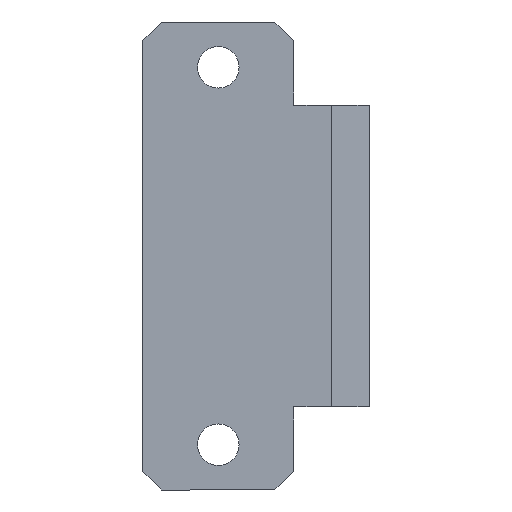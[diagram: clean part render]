
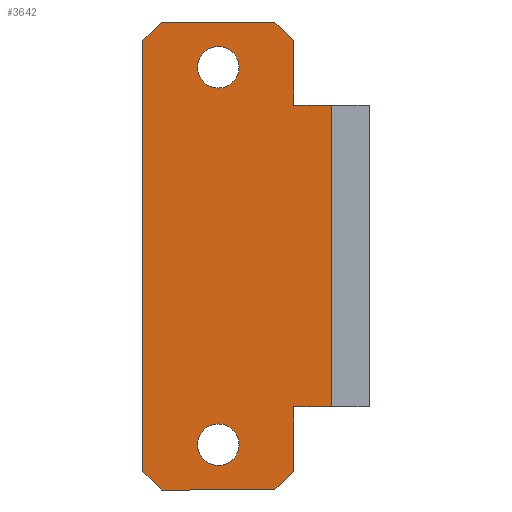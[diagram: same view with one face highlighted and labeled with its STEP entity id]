
A CAD part, left-side view. The second image highlights one B-rep face of the part: STEP entity #3642.
In plain terms, the highlighted planar face has unit normal (-1, 0, 0).
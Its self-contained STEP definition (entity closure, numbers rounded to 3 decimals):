
#74 = AXIS2_PLACEMENT_3D ( 'NONE', #2791, #906, #3105 ) ;
#83 = DIRECTION ( 'NONE',  ( 0., -1., 0. ) ) ;
#160 = ORIENTED_EDGE ( 'NONE', *, *, #3017, .T. ) ;
#168 = EDGE_LOOP ( 'NONE', ( #2089, #3054 ) ) ;
#237 = CARTESIAN_POINT ( 'NONE',  ( -20., 10., -28.5 ) ) ;
#273 = CARTESIAN_POINT ( 'NONE',  ( -20., 27.5, 31. ) ) ;
#294 = EDGE_CURVE ( 'NONE', #2698, #2354, #1527, .T. ) ;
#300 = VECTOR ( 'NONE', #1321, 1000. ) ;
#321 = AXIS2_PLACEMENT_3D ( 'NONE', #3120, #832, #2805 ) ;
#324 = LINE ( 'NONE', #798, #3401 ) ;
#343 = CARTESIAN_POINT ( 'NONE',  ( -20., 12.5, -31. ) ) ;
#383 = LINE ( 'NONE', #3489, #2809 ) ;
#431 = EDGE_CURVE ( 'NONE', #857, #1084, #2694, .T. ) ;
#482 = LINE ( 'NONE', #1504, #3006 ) ;
#501 = CARTESIAN_POINT ( 'NONE',  ( -20., 30., -20. ) ) ;
#503 = ORIENTED_EDGE ( 'NONE', *, *, #934, .T. ) ;
#563 = ORIENTED_EDGE ( 'NONE', *, *, #1561, .T. ) ;
#567 = DIRECTION ( 'NONE',  ( 0., 0.707, 0.707 ) ) ;
#591 = CARTESIAN_POINT ( 'NONE',  ( -20., 20., -25. ) ) ;
#599 = EDGE_LOOP ( 'NONE', ( #3307, #640, #1710, #2998, #2065, #160, #563, #1528, #1882, #2816, #824, #503 ) ) ;
#613 = CARTESIAN_POINT ( 'NONE',  ( -20., 12.5, -31. ) ) ;
#624 = VECTOR ( 'NONE', #1663, 1000. ) ;
#640 = ORIENTED_EDGE ( 'NONE', *, *, #1023, .T. ) ;
#684 = CARTESIAN_POINT ( 'NONE',  ( -20., 5., 20. ) ) ;
#692 = CARTESIAN_POINT ( 'NONE',  ( -20., 20., 25. ) ) ;
#738 = CARTESIAN_POINT ( 'NONE',  ( -20., 27.5, -31. ) ) ;
#755 = CARTESIAN_POINT ( 'NONE',  ( -20., 10., 28.5 ) ) ;
#798 = CARTESIAN_POINT ( 'NONE',  ( -20., 30., 31. ) ) ;
#824 = ORIENTED_EDGE ( 'NONE', *, *, #431, .T. ) ;
#832 = DIRECTION ( 'NONE',  ( 1., 0., 0. ) ) ;
#839 = CARTESIAN_POINT ( 'NONE',  ( -20., 5., -20. ) ) ;
#857 = VERTEX_POINT ( 'NONE', #343 ) ;
#868 = DIRECTION ( 'NONE',  ( 0., 0., -1. ) ) ;
#879 = VERTEX_POINT ( 'NONE', #3827 ) ;
#893 = VECTOR ( 'NONE', #83, 1000. ) ;
#906 = DIRECTION ( 'NONE',  ( 1., 0., 0. ) ) ;
#934 = EDGE_CURVE ( 'NONE', #1084, #3997, #3722, .T. ) ;
#960 = EDGE_CURVE ( 'NONE', #2354, #2698, #2674, .T. ) ;
#972 = VERTEX_POINT ( 'NONE', #273 ) ;
#992 = LINE ( 'NONE', #2770, #2664 ) ;
#1013 = DIRECTION ( 'NONE',  ( 0., 0., -1. ) ) ;
#1023 = EDGE_CURVE ( 'NONE', #2119, #1900, #2571, .T. ) ;
#1084 = VERTEX_POINT ( 'NONE', #237 ) ;
#1146 = DIRECTION ( 'NONE',  ( 0., 0., 1. ) ) ;
#1160 = CIRCLE ( 'NONE', #4104, 2.75 ) ;
#1208 = VECTOR ( 'NONE', #2083, 1000. ) ;
#1264 = CARTESIAN_POINT ( 'NONE',  ( -20., 10., -20. ) ) ;
#1304 = LINE ( 'NONE', #501, #1208 ) ;
#1321 = DIRECTION ( 'NONE',  ( 0., -1., 0. ) ) ;
#1419 = FACE_BOUND ( 'NONE', #1589, .T. ) ;
#1493 = LINE ( 'NONE', #3869, #624 ) ;
#1504 = CARTESIAN_POINT ( 'NONE',  ( -20., 10., 28.5 ) ) ;
#1517 = FACE_BOUND ( 'NONE', #168, .T. ) ;
#1527 = CIRCLE ( 'NONE', #1639, 2.75 ) ;
#1528 = ORIENTED_EDGE ( 'NONE', *, *, #1692, .F. ) ;
#1561 = EDGE_CURVE ( 'NONE', #972, #879, #2812, .T. ) ;
#1589 = EDGE_LOOP ( 'NONE', ( #3515, #2394 ) ) ;
#1610 = CARTESIAN_POINT ( 'NONE',  ( -20., 10., 20. ) ) ;
#1639 = AXIS2_PLACEMENT_3D ( 'NONE', #591, #2501, #4083 ) ;
#1663 = DIRECTION ( 'NONE',  ( 0., 0., 1. ) ) ;
#1664 = CARTESIAN_POINT ( 'NONE',  ( -20., 20., 27.75 ) ) ;
#1692 = EDGE_CURVE ( 'NONE', #1996, #879, #992, .T. ) ;
#1710 = ORIENTED_EDGE ( 'NONE', *, *, #1747, .F. ) ;
#1747 = EDGE_CURVE ( 'NONE', #2336, #1900, #3505, .T. ) ;
#1753 = VECTOR ( 'NONE', #2153, 1000. ) ;
#1760 = DIRECTION ( 'NONE',  ( 0., 1., 0. ) ) ;
#1820 = EDGE_CURVE ( 'NONE', #1996, #2915, #383, .T. ) ;
#1858 = VECTOR ( 'NONE', #2827, 1000. ) ;
#1882 = ORIENTED_EDGE ( 'NONE', *, *, #1820, .T. ) ;
#1900 = VERTEX_POINT ( 'NONE', #684 ) ;
#1978 = VECTOR ( 'NONE', #3830, 1000. ) ;
#1996 = VERTEX_POINT ( 'NONE', #3953 ) ;
#2065 = ORIENTED_EDGE ( 'NONE', *, *, #3147, .T. ) ;
#2083 = DIRECTION ( 'NONE',  ( 0., -1., 0. ) ) ;
#2089 = ORIENTED_EDGE ( 'NONE', *, *, #294, .T. ) ;
#2108 = CARTESIAN_POINT ( 'NONE',  ( -20., 20., 22.25 ) ) ;
#2119 = VERTEX_POINT ( 'NONE', #839 ) ;
#2127 = CARTESIAN_POINT ( 'NONE',  ( -20., 30., -20. ) ) ;
#2153 = DIRECTION ( 'NONE',  ( 0., 0., 1. ) ) ;
#2224 = VERTEX_POINT ( 'NONE', #2108 ) ;
#2235 = CARTESIAN_POINT ( 'NONE',  ( -20., 20., -22.25 ) ) ;
#2255 = VERTEX_POINT ( 'NONE', #2898 ) ;
#2287 = DIRECTION ( 'NONE',  ( 0., -0.707, -0.707 ) ) ;
#2336 = VERTEX_POINT ( 'NONE', #1610 ) ;
#2354 = VERTEX_POINT ( 'NONE', #2235 ) ;
#2394 = ORIENTED_EDGE ( 'NONE', *, *, #3744, .T. ) ;
#2435 = PLANE ( 'NONE',  #3755 ) ;
#2501 = DIRECTION ( 'NONE',  ( 1., 0., 0. ) ) ;
#2508 = CARTESIAN_POINT ( 'NONE',  ( -20., 20., -27.75 ) ) ;
#2571 = LINE ( 'NONE', #3731, #1753 ) ;
#2664 = VECTOR ( 'NONE', #1146, 1000. ) ;
#2674 = CIRCLE ( 'NONE', #321, 2.75 ) ;
#2694 = LINE ( 'NONE', #613, #1858 ) ;
#2698 = VERTEX_POINT ( 'NONE', #2508 ) ;
#2755 = DIRECTION ( 'NONE',  ( 1., 0., 0. ) ) ;
#2770 = CARTESIAN_POINT ( 'NONE',  ( -20., 30., -20. ) ) ;
#2791 = CARTESIAN_POINT ( 'NONE',  ( -20., 20., 25. ) ) ;
#2805 = DIRECTION ( 'NONE',  ( 0., 0., -1. ) ) ;
#2809 = VECTOR ( 'NONE', #2287, 1000. ) ;
#2812 = LINE ( 'NONE', #3037, #1978 ) ;
#2816 = ORIENTED_EDGE ( 'NONE', *, *, #3906, .T. ) ;
#2827 = DIRECTION ( 'NONE',  ( 0., -0.707, 0.707 ) ) ;
#2864 = EDGE_CURVE ( 'NONE', #2336, #2963, #1493, .T. ) ;
#2882 = CIRCLE ( 'NONE', #74, 2.75 ) ;
#2898 = CARTESIAN_POINT ( 'NONE',  ( -20., 12.5, 31. ) ) ;
#2901 = DIRECTION ( 'NONE',  ( 1., 0., 0. ) ) ;
#2915 = VERTEX_POINT ( 'NONE', #738 ) ;
#2963 = VERTEX_POINT ( 'NONE', #755 ) ;
#2998 = ORIENTED_EDGE ( 'NONE', *, *, #2864, .T. ) ;
#3006 = VECTOR ( 'NONE', #567, 1000. ) ;
#3017 = EDGE_CURVE ( 'NONE', #2255, #972, #324, .T. ) ;
#3037 = CARTESIAN_POINT ( 'NONE',  ( -20., 27.5, 31. ) ) ;
#3054 = ORIENTED_EDGE ( 'NONE', *, *, #960, .T. ) ;
#3105 = DIRECTION ( 'NONE',  ( 0., 0., -1. ) ) ;
#3120 = CARTESIAN_POINT ( 'NONE',  ( -20., 20., -25. ) ) ;
#3141 = DIRECTION ( 'NONE',  ( 0., 0., 1. ) ) ;
#3147 = EDGE_CURVE ( 'NONE', #2963, #2255, #482, .T. ) ;
#3196 = CARTESIAN_POINT ( 'NONE',  ( -20., 30., -31. ) ) ;
#3304 = CARTESIAN_POINT ( 'NONE',  ( -20., 10., -20. ) ) ;
#3307 = ORIENTED_EDGE ( 'NONE', *, *, #4095, .T. ) ;
#3340 = CARTESIAN_POINT ( 'NONE',  ( -20., 30., 20. ) ) ;
#3371 = VERTEX_POINT ( 'NONE', #1664 ) ;
#3401 = VECTOR ( 'NONE', #1760, 1000. ) ;
#3489 = CARTESIAN_POINT ( 'NONE',  ( -20., 30., -28.5 ) ) ;
#3505 = LINE ( 'NONE', #3340, #893 ) ;
#3515 = ORIENTED_EDGE ( 'NONE', *, *, #3923, .T. ) ;
#3620 = VECTOR ( 'NONE', #3141, 1000. ) ;
#3642 = ADVANCED_FACE ( 'NONE', ( #1419, #1517, #3935 ), #2435, .F. ) ;
#3680 = LINE ( 'NONE', #3196, #300 ) ;
#3722 = LINE ( 'NONE', #1264, #3620 ) ;
#3731 = CARTESIAN_POINT ( 'NONE',  ( -20., 5., -20. ) ) ;
#3744 = EDGE_CURVE ( 'NONE', #3371, #2224, #2882, .T. ) ;
#3755 = AXIS2_PLACEMENT_3D ( 'NONE', #2127, #2755, #868 ) ;
#3827 = CARTESIAN_POINT ( 'NONE',  ( -20., 30., 28.5 ) ) ;
#3830 = DIRECTION ( 'NONE',  ( 0., 0.707, -0.707 ) ) ;
#3869 = CARTESIAN_POINT ( 'NONE',  ( -20., 10., 20. ) ) ;
#3906 = EDGE_CURVE ( 'NONE', #2915, #857, #3680, .T. ) ;
#3923 = EDGE_CURVE ( 'NONE', #2224, #3371, #1160, .T. ) ;
#3935 = FACE_OUTER_BOUND ( 'NONE', #599, .T. ) ;
#3953 = CARTESIAN_POINT ( 'NONE',  ( -20., 30., -28.5 ) ) ;
#3997 = VERTEX_POINT ( 'NONE', #3304 ) ;
#4083 = DIRECTION ( 'NONE',  ( 0., 0., -1. ) ) ;
#4095 = EDGE_CURVE ( 'NONE', #3997, #2119, #1304, .T. ) ;
#4104 = AXIS2_PLACEMENT_3D ( 'NONE', #692, #2901, #1013 ) ;
